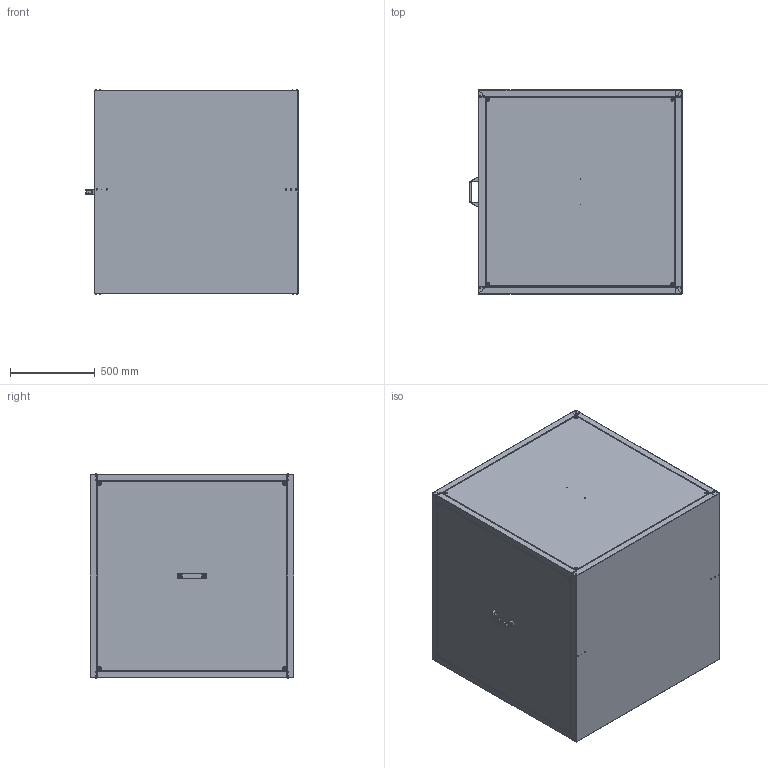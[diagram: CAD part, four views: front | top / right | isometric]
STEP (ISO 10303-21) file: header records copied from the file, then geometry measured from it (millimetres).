
FILE_DESCRIPTION (( 'STEP AP203' ), '1' );
FILE_NAME ('150961-00_MPC800D640_step.step', '2020-07-21T06:28:11', ( '' ), ( '' ), 'SwSTEP 2.0', 'SolidWorks 2017', '' );
FILE_SCHEMA (( 'CONFIG_CONTROL_DESIGN' ));
Length unit declared in the file: millimetre
Products named in the file (2): 150961-00_MPC800D640_step
Bounding box: 1253.3 x 1200.2 x 1202.6 mm (x, y, z)
Surface area: 15617268.1 mm2 (no closed solid volume)
Topology: 0 solids, 265 shells, 1012 faces, 4973 edges, 4051 vertices
Faces by surface type: cylinder 355, plane 331, torus 232, cone 47, bspline 47
Entity records: 72156 total; most frequent: CARTESIAN_POINT 32902, DIRECTION 8512, ORIENTED_EDGE 6246, EDGE_CURVE 4970, VERTEX_POINT 4051, AXIS2_PLACEMENT_3D 3271, CIRCLE 2304, VECTOR 1970
